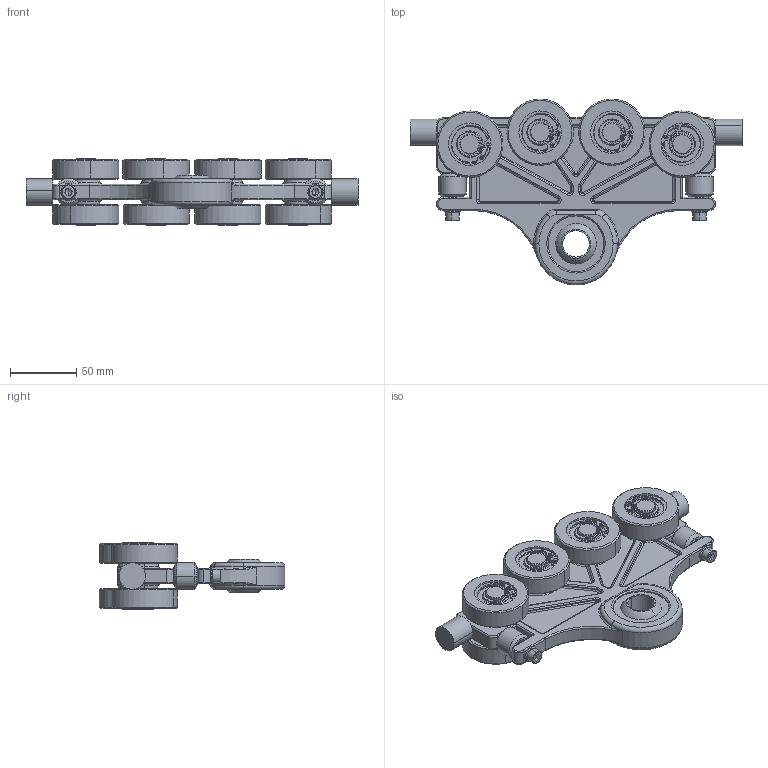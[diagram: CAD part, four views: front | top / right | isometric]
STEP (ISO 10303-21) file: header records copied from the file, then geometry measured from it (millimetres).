
FILE_DESCRIPTION (( 'STEP AP214' ), '1' );
FILE_NAME ('900.200.102-1.STEP', '2015-02-17T09:36:00', ( '' ), ( '' ), 'SwSTEP 2.0', 'SolidWorks 2012', '' );
FILE_SCHEMA (( 'AUTOMOTIVE_DESIGN' ));
Length unit declared in the file: millimetre
Products named in the file (13): RONDELLE UNI 6592 INOX_6.4x12.5 UNI 6592 INOX; 900.200.004-2; GE 20 FW; 900.200.001-3; plain washer chamfered grade a_iso_Washer ISO 7090 - 6; socket head cap screw_iso_ISO 4762 M6 x 45 --- 24N; 800.019.127; circlip for bores normal_din_Circlip DIN 472 - 32 x 1.2; circlip for shafts normal_din_Circlip DIN 471 - 15 x 1; CUSCINETTI A SFERE_6002-2Z; 900.200.005; 900.200.003-1; 900.200.102-1
Assembly tree (50 placements, depth 2):
  900.200.102-1
    900.200.003-1  x8
    900.200.005  x4
    CUSCINETTI A SFERE_6002-2Z  x8
    circlip for shafts normal_din_Circlip DIN 471 - 15 x 1  x8
    circlip for bores normal_din_Circlip DIN 472 - 32 x 1.2  x8
    800.019.127  x2
    socket head cap screw_iso_ISO 4762 M6 x 45 --- 24N  x2
    plain washer chamfered grade a_iso_Washer ISO 7090 - 6  x2
    900.200.001-3
    GE 20 FW
    900.200.004-2  x2
    RONDELLE UNI 6592 INOX_6.4x12.5 UNI 6592 INOX  x4
Bounding box: 250 x 139.94 x 50 mm (x, y, z)
Volume: 443321.6 mm3; surface area: 166621.8 mm2
Topology: 52 solids, 52 shells, 1523 faces, 3499 edges, 2168 vertices
Faces by surface type: cylinder 657, plane 342, cone 186, torus 178, bspline 160
Entity records: 27951 total; most frequent: CARTESIAN_POINT 11391, DIRECTION 3368, ORIENTED_EDGE 3326, EDGE_CURVE 1663, AXIS2_PLACEMENT_3D 1442, VERTEX_POINT 993, CIRCLE 816, EDGE_LOOP 804
